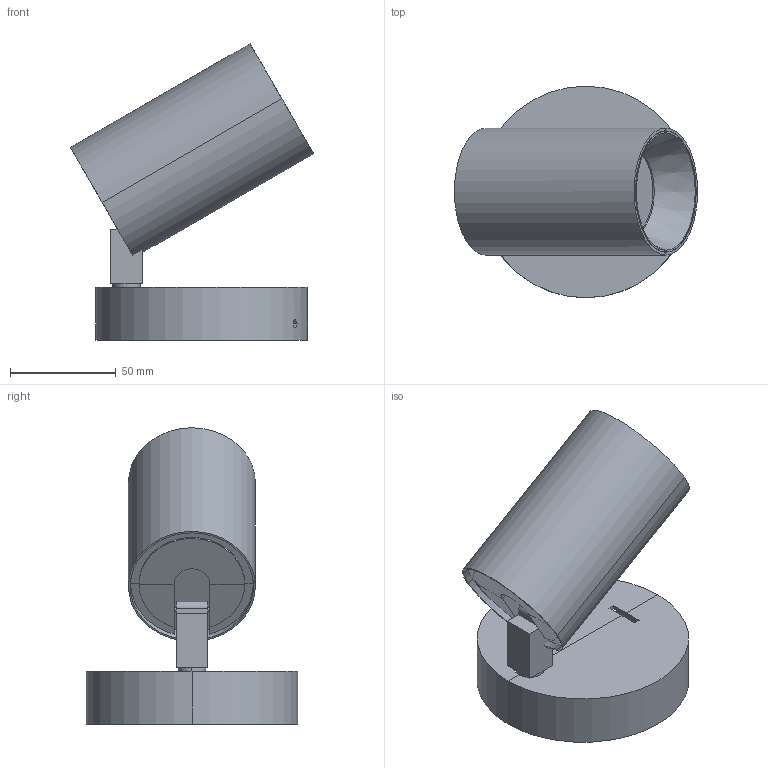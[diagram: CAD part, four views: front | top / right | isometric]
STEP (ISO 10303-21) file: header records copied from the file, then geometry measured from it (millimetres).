
FILE_DESCRIPTION(/* description */ (''),/* implementation_level */ '2;1');
FILE_NAME(/* name */ '43767.step',/* time_stamp */ '2024-05-14T09:37:20+02:00',/* author */ ('RenataManzini'),/* organization */ (''),/* preprocessor_version */ 'ST-DEVELOPER v20',/* originating_system */ 'AutoCAD Mechanical',/* authorisation */ '');
FILE_SCHEMA (('AUTOMOTIVE_DESIGN { 1 0 10303 214 3 1 1 }'));
Length unit declared in the file: millimetre
Products named in the file (2): Product; 43767_43768_STAN - STAN-479494-Export
Assembly tree (1 placements, depth 2):
  Product
    43767_43768_STAN - STAN-479494-Export
Bounding box: 114.87 x 100 x 140.12 mm (x, y, z)
Volume: 120773.5 mm3; surface area: 97170.3 mm2
Topology: 6 solids, 9 shells, 165 faces, 417 edges, 255 vertices
Faces by surface type: plane 83, cylinder 67, cone 11, bspline 4
Entity records: 6238 total; most frequent: CARTESIAN_POINT 2205, DIRECTION 842, ORIENTED_EDGE 792, EDGE_CURVE 414, AXIS2_PLACEMENT_3D 297, VERTEX_POINT 250, LINE 248, VECTOR 248
